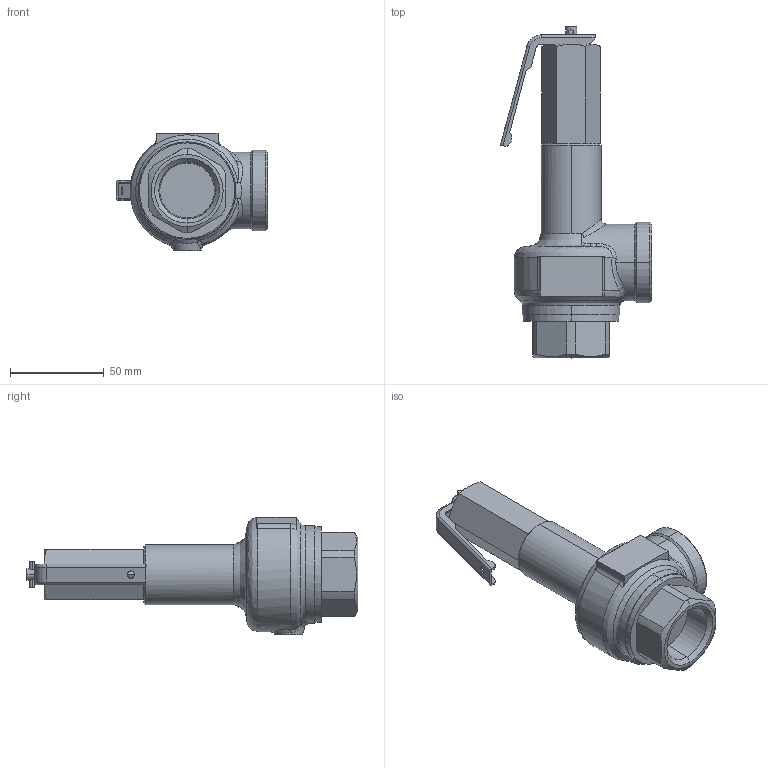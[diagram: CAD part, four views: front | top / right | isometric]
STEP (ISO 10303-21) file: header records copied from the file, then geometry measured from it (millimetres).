
FILE_DESCRIPTION( (''), '2;1');
FILE_NAME ('PC1276.14284.AL-140ML 25A_31016.stp','2025-12-05T09:03:18',(''),(''),'spGate 20.6.3 (****-****-****-****)','','');
FILE_SCHEMA (('AUTOMOTIVE_DESIGN'));
Length unit declared in the file: millimetre
Products named in the file (3): Assembly; AL-12 Lever; AL-140ML 25A(non-lever)-3D
Assembly tree (2 placements, depth 2):
  Assembly
    AL-12 Lever
    AL-140ML 25A(non-lever)-3D
Bounding box: 80.79 x 177.25 x 62.5 mm (x, y, z)
Volume: 219106.7 mm3; surface area: 33785.3 mm2
Topology: 2 solids, 2 shells, 175 faces, 421 edges, 258 vertices
Faces by surface type: plane 63, bspline 59, cylinder 49, sphere 4
Entity records: 10441 total; most frequent: CARTESIAN_POINT 3274, ORIENTED_EDGE 842, DIRECTION 704, COLOUR_RGB 598, PRESENTATION_STYLE_ASSIGNMENT 598, STYLED_ITEM 598, EDGE_CURVE 421, DRAUGHTING_PRE_DEFINED_CURVE_FONT 421
